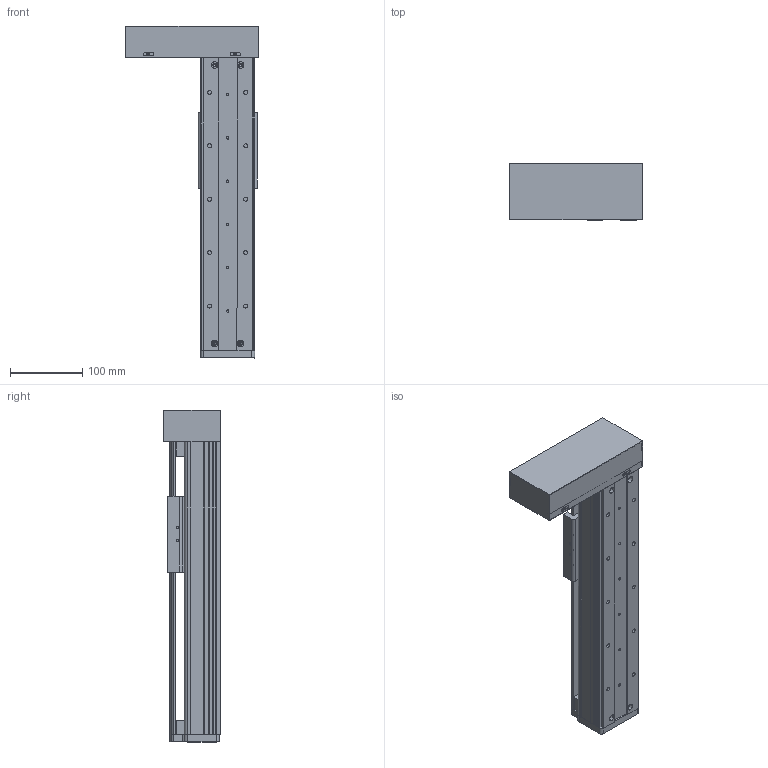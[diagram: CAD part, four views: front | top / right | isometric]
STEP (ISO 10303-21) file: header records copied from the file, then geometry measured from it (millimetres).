
FILE_DESCRIPTION (( 'STEP AP214' ), '1' );
FILE_NAME ('CF75-C-200-FWL.STEP', '2019-12-03T02:00:58', ( '微软用户' ), ( '微软中国' ), 'SwSTEP 2.0', 'SolidWorks 2016', '' );
FILE_SCHEMA (( 'AUTOMOTIVE_DESIGN' ));
Length unit declared in the file: millimetre
Products named in the file (11): EGR15絳寢-200; EGW15CA賑輸; 肮祭謫俋欶; CF75酘殏萇儂假蚾啣; 75賑雄啣; 75盓厥釱; 75耜啣; 75嘐隅釱; CF75臏倰第-200; 75裔啣-200; CF75-C-200-FWL
Assembly tree (10 placements, depth 2):
  CF75-C-200-FWL
    75裔啣-200
    CF75臏倰第-200
    75嘐隅釱
    75耜啣
    75盓厥釱
    75賑雄啣
    CF75酘殏萇儂假蚾啣
    肮祭謫俋欶
    EGW15CA賑輸
    EGR15絳寢-200
Bounding box: 183.02 x 78 x 460.07 mm (x, y, z)
Volume: 1130041.3 mm3; surface area: 431655 mm2
Topology: 10 solids, 10 shells, 621 faces, 1703 edges, 1113 vertices
Faces by surface type: plane 340, cylinder 253, cone 28
Entity records: 21204 total; most frequent: CARTESIAN_POINT 4019, ORIENTED_EDGE 3374, DIRECTION 3339, EDGE_CURVE 1687, AXIS2_PLACEMENT_3D 1143, VERTEX_POINT 1113, VECTOR 1053, LINE 1053
